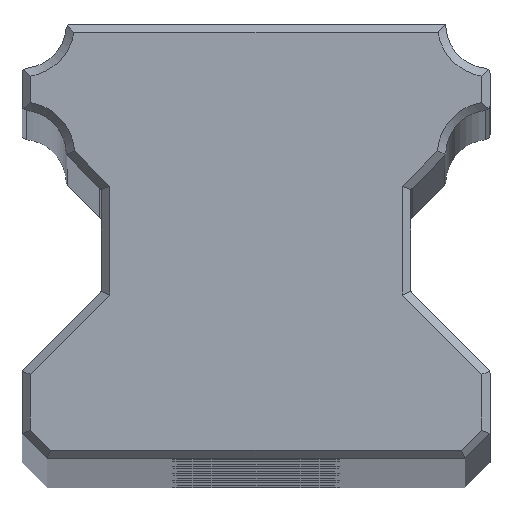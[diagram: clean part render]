
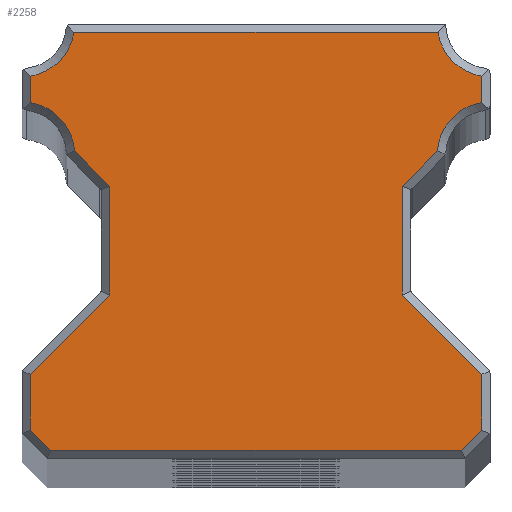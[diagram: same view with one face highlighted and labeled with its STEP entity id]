
A CAD part, top view. The second image highlights one B-rep face of the part: STEP entity #2258.
In plain terms, the highlighted planar face has unit normal (0, 0, 1).
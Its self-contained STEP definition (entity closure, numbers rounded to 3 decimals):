
#57=CIRCLE('',#2394,3.15);
#61=CIRCLE('',#2440,3.15);
#76=CIRCLE('',#2469,3.15);
#77=CIRCLE('',#2472,3.15);
#256=PLANE('',#2476);
#335=FACE_OUTER_BOUND('',#482,.T.);
#482=EDGE_LOOP('',(#1789,#1790,#1791,#1792,#1793,#1794,#1795,#1796,#1797,
#1798,#1799,#1800,#1801,#1802,#1803,#1804,#1805,#1806));
#607=LINE('',#3434,#766);
#616=LINE('',#3502,#775);
#625=LINE('',#3583,#784);
#652=LINE('',#3704,#811);
#659=LINE('',#3809,#818);
#661=LINE('',#3818,#820);
#666=LINE('',#3828,#825);
#670=LINE('',#3835,#829);
#672=LINE('',#3840,#831);
#674=LINE('',#3843,#833);
#676=LINE('',#3846,#835);
#678=LINE('',#3850,#837);
#680=LINE('',#3853,#839);
#681=LINE('',#3858,#840);
#766=VECTOR('',#2696,10.);
#775=VECTOR('',#2721,10.);
#784=VECTOR('',#2762,10.);
#811=VECTOR('',#2849,10.);
#818=VECTOR('',#2910,10.);
#820=VECTOR('',#2914,10.);
#825=VECTOR('',#2921,10.);
#829=VECTOR('',#2927,10.);
#831=VECTOR('',#2931,10.);
#833=VECTOR('',#2935,10.);
#835=VECTOR('',#2939,10.);
#837=VECTOR('',#2943,10.);
#839=VECTOR('',#2947,10.);
#840=VECTOR('',#2956,10.);
#970=VERTEX_POINT('',#3431);
#971=VERTEX_POINT('',#3433);
#985=VERTEX_POINT('',#3496);
#986=VERTEX_POINT('',#3501);
#994=VERTEX_POINT('',#3550);
#1002=VERTEX_POINT('',#3582);
#1037=VERTEX_POINT('',#3698);
#1038=VERTEX_POINT('',#3703);
#1046=VERTEX_POINT('',#3754);
#1065=VERTEX_POINT('',#3808);
#1066=VERTEX_POINT('',#3815);
#1067=VERTEX_POINT('',#3817);
#1070=VERTEX_POINT('',#3825);
#1071=VERTEX_POINT('',#3827);
#1073=VERTEX_POINT('',#3833);
#1074=VERTEX_POINT('',#3837);
#1075=VERTEX_POINT('',#3839);
#1076=VERTEX_POINT('',#3849);
#1191=EDGE_CURVE('',#970,#971,#607,.T.);
#1210=EDGE_CURVE('',#985,#986,#616,.T.);
#1222=EDGE_CURVE('',#986,#994,#57,.T.);
#1234=EDGE_CURVE('',#994,#1002,#625,.T.);
#1283=EDGE_CURVE('',#1037,#1038,#652,.T.);
#1295=EDGE_CURVE('',#1038,#1046,#61,.T.);
#1317=EDGE_CURVE('',#1046,#1065,#659,.T.);
#1320=EDGE_CURVE('',#1066,#1067,#661,.T.);
#1325=EDGE_CURVE('',#1070,#1071,#666,.T.);
#1329=EDGE_CURVE('',#1073,#1070,#670,.T.);
#1331=EDGE_CURVE('',#1074,#1075,#672,.T.);
#1333=EDGE_CURVE('',#1075,#1073,#674,.T.);
#1335=EDGE_CURVE('',#1002,#1074,#676,.T.);
#1337=EDGE_CURVE('',#1071,#1076,#678,.T.);
#1339=EDGE_CURVE('',#1076,#1066,#680,.T.);
#1341=EDGE_CURVE('',#1065,#985,#76,.T.);
#1342=EDGE_CURVE('',#1067,#970,#681,.T.);
#1343=EDGE_CURVE('',#971,#1037,#77,.T.);
#1789=ORIENTED_EDGE('',*,*,#1331,.F.);
#1790=ORIENTED_EDGE('',*,*,#1335,.F.);
#1791=ORIENTED_EDGE('',*,*,#1234,.F.);
#1792=ORIENTED_EDGE('',*,*,#1222,.F.);
#1793=ORIENTED_EDGE('',*,*,#1210,.F.);
#1794=ORIENTED_EDGE('',*,*,#1341,.F.);
#1795=ORIENTED_EDGE('',*,*,#1317,.F.);
#1796=ORIENTED_EDGE('',*,*,#1295,.F.);
#1797=ORIENTED_EDGE('',*,*,#1283,.F.);
#1798=ORIENTED_EDGE('',*,*,#1343,.F.);
#1799=ORIENTED_EDGE('',*,*,#1191,.F.);
#1800=ORIENTED_EDGE('',*,*,#1342,.F.);
#1801=ORIENTED_EDGE('',*,*,#1320,.F.);
#1802=ORIENTED_EDGE('',*,*,#1339,.F.);
#1803=ORIENTED_EDGE('',*,*,#1337,.F.);
#1804=ORIENTED_EDGE('',*,*,#1325,.F.);
#1805=ORIENTED_EDGE('',*,*,#1329,.F.);
#1806=ORIENTED_EDGE('',*,*,#1333,.F.);
#2258=ADVANCED_FACE('',(#335),#256,.T.);
#2394=AXIS2_PLACEMENT_3D('',#3551,#2740,#2741);
#2440=AXIS2_PLACEMENT_3D('',#3755,#2868,#2869);
#2469=AXIS2_PLACEMENT_3D('',#3856,#2952,#2953);
#2472=AXIS2_PLACEMENT_3D('',#3860,#2959,#2960);
#2476=AXIS2_PLACEMENT_3D('',#3864,#2967,#2968);
#2696=DIRECTION('',(-0.707,0.707,0.));
#2721=DIRECTION('',(0.,-1.,0.));
#2740=DIRECTION('center_axis',(0.,0.,1.));
#2741=DIRECTION('ref_axis',(0.,1.,0.));
#2762=DIRECTION('',(-0.707,-0.707,0.));
#2849=DIRECTION('',(0.,1.,0.));
#2868=DIRECTION('center_axis',(0.,0.,1.));
#2869=DIRECTION('ref_axis',(1.,0.,0.));
#2910=DIRECTION('',(1.,0.,0.));
#2914=DIRECTION('',(0.707,0.707,0.));
#2921=DIRECTION('',(-1.,0.,0.));
#2927=DIRECTION('',(-0.707,-0.707,0.));
#2931=DIRECTION('',(0.707,-0.707,0.));
#2935=DIRECTION('',(0.,-1.,0.));
#2939=DIRECTION('',(0.,-1.,0.));
#2943=DIRECTION('',(-0.707,0.707,0.));
#2947=DIRECTION('',(0.,1.,0.));
#2952=DIRECTION('center_axis',(0.,0.,1.));
#2953=DIRECTION('ref_axis',(-1.,0.,0.));
#2956=DIRECTION('',(0.,1.,0.));
#2959=DIRECTION('center_axis',(0.,0.,1.));
#2960=DIRECTION('ref_axis',(0.,1.,0.));
#2967=DIRECTION('center_axis',(0.,0.,1.));
#2968=DIRECTION('ref_axis',(1.,0.,0.));
#3431=CARTESIAN_POINT('',(-8.75,16.307,0.));
#3433=CARTESIAN_POINT('',(-10.857,18.414,0.));
#3434=CARTESIAN_POINT('',(-5.109,12.666,0.));
#3496=CARTESIAN_POINT('',(13.5,22.89,0.));
#3501=CARTESIAN_POINT('',(13.5,21.31,0.));
#3502=CARTESIAN_POINT('',(13.5,18.175,0.));
#3550=CARTESIAN_POINT('',(10.857,18.414,0.));
#3551=CARTESIAN_POINT('Origin',(14.,18.2,0.));
#3582=CARTESIAN_POINT('',(8.75,16.307,0.));
#3583=CARTESIAN_POINT('',(8.609,16.166,0.));
#3698=CARTESIAN_POINT('',(-13.5,21.31,0.));
#3703=CARTESIAN_POINT('',(-13.5,22.89,0.));
#3704=CARTESIAN_POINT('',(-13.5,18.175,0.));
#3754=CARTESIAN_POINT('',(-10.89,25.5,0.));
#3755=CARTESIAN_POINT('Origin',(-14.,26.,0.));
#3808=CARTESIAN_POINT('',(10.89,25.5,0.));
#3809=CARTESIAN_POINT('',(3.5,25.5,0.));
#3815=CARTESIAN_POINT('',(-13.5,5.043,0.));
#3817=CARTESIAN_POINT('',(-8.75,9.793,0.));
#3818=CARTESIAN_POINT('',(-4.084,14.459,0.));
#3825=CARTESIAN_POINT('',(12.293,0.5,0.));
#3827=CARTESIAN_POINT('',(-12.293,0.5,0.));
#3828=CARTESIAN_POINT('',(9.75,0.5,0.));
#3833=CARTESIAN_POINT('',(13.5,1.707,0.));
#3835=CARTESIAN_POINT('',(14.771,2.979,0.));
#3837=CARTESIAN_POINT('',(8.75,9.793,0.));
#3839=CARTESIAN_POINT('',(13.5,5.043,0.));
#3840=CARTESIAN_POINT('',(7.584,10.959,0.));
#3843=CARTESIAN_POINT('',(13.5,9.125,0.));
#3846=CARTESIAN_POINT('',(8.75,14.55,0.));
#3849=CARTESIAN_POINT('',(-13.5,1.707,0.));
#3850=CARTESIAN_POINT('',(-11.271,-0.521,0.));
#3853=CARTESIAN_POINT('',(-13.5,9.125,0.));
#3856=CARTESIAN_POINT('Origin',(14.,26.,0.));
#3858=CARTESIAN_POINT('',(-8.75,14.55,0.));
#3860=CARTESIAN_POINT('Origin',(-14.,18.2,0.));
#3864=CARTESIAN_POINT('Origin',(7.,13.,0.));
